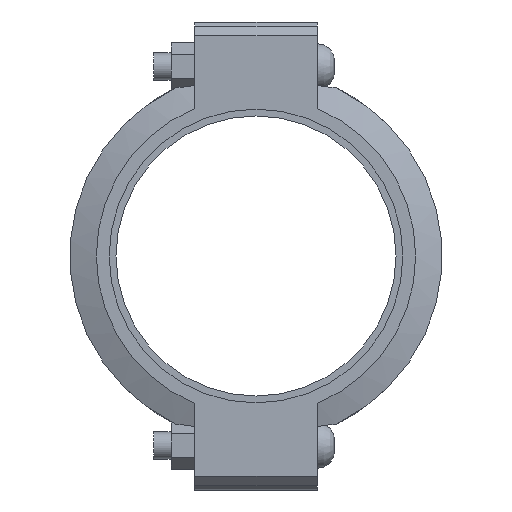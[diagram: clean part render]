
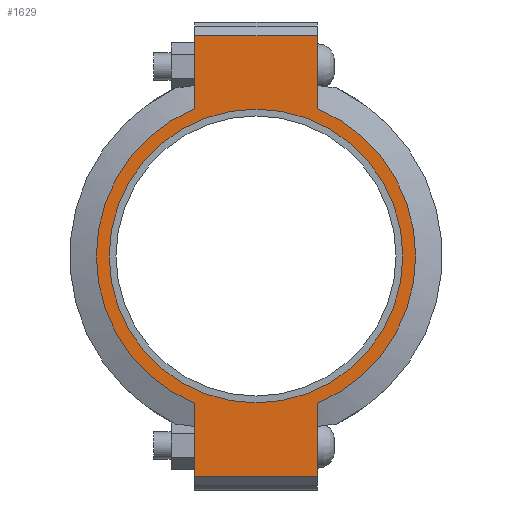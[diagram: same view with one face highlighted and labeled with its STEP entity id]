
A CAD part, left-side view. The second image highlights one B-rep face of the part: STEP entity #1629.
In plain terms, the highlighted planar face has unit normal (-1, 0, 0) as drawn and (0, 0, 1) by its records, which use the part's own axes.
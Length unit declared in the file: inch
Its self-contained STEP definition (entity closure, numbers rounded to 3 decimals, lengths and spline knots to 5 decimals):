
#200=LINE('',#2824,#289);
#211=LINE('',#2875,#300);
#217=LINE('',#2901,#306);
#219=LINE('',#2904,#308);
#220=LINE('',#2909,#309);
#221=LINE('',#2910,#310);
#289=VECTOR('',#2300,0.3937);
#300=VECTOR('',#2331,0.3937);
#306=VECTOR('',#2349,0.3937);
#308=VECTOR('',#2353,0.3937);
#309=VECTOR('',#2358,0.3937);
#310=VECTOR('',#2359,0.3937);
#372=FACE_BOUND('',#549,.T.);
#440=FACE_OUTER_BOUND('',#548,.T.);
#548=EDGE_LOOP('',(#1324,#1325,#1326,#1327,#1328,#1329,#1330,#1331));
#549=EDGE_LOOP('',(#1332));
#631=CIRCLE('',#1866,5.375);
#655=CIRCLE('',#1918,5.845);
#656=CIRCLE('',#1919,5.845);
#727=VERTEX_POINT('',#2650);
#768=VERTEX_POINT('',#2821);
#769=VERTEX_POINT('',#2823);
#786=VERTEX_POINT('',#2870);
#787=VERTEX_POINT('',#2874);
#794=VERTEX_POINT('',#2896);
#795=VERTEX_POINT('',#2900);
#796=VERTEX_POINT('',#2906);
#797=VERTEX_POINT('',#2908);
#891=EDGE_CURVE('',#727,#727,#631,.T.);
#948=EDGE_CURVE('',#769,#768,#200,.T.);
#969=EDGE_CURVE('',#787,#786,#211,.T.);
#980=EDGE_CURVE('',#795,#794,#217,.T.);
#982=EDGE_CURVE('',#795,#768,#219,.T.);
#983=EDGE_CURVE('',#794,#796,#655,.T.);
#984=EDGE_CURVE('',#796,#797,#220,.T.);
#985=EDGE_CURVE('',#787,#797,#221,.T.);
#986=EDGE_CURVE('',#786,#769,#656,.T.);
#1324=ORIENTED_EDGE('',*,*,#982,.F.);
#1325=ORIENTED_EDGE('',*,*,#980,.T.);
#1326=ORIENTED_EDGE('',*,*,#983,.T.);
#1327=ORIENTED_EDGE('',*,*,#984,.T.);
#1328=ORIENTED_EDGE('',*,*,#985,.F.);
#1329=ORIENTED_EDGE('',*,*,#969,.T.);
#1330=ORIENTED_EDGE('',*,*,#986,.T.);
#1331=ORIENTED_EDGE('',*,*,#948,.T.);
#1332=ORIENTED_EDGE('',*,*,#891,.T.);
#1469=PLANE('',#1917);
#1629=ADVANCED_FACE('',(#440,#372),#1469,.T.);
#1866=AXIS2_PLACEMENT_3D('',#2652,#2190,#2191);
#1917=AXIS2_PLACEMENT_3D('',#2905,#2354,#2355);
#1918=AXIS2_PLACEMENT_3D('',#2907,#2356,#2357);
#1919=AXIS2_PLACEMENT_3D('',#2911,#2360,#2361);
#2190=DIRECTION('center_axis',(0.,0.,-1.));
#2191=DIRECTION('ref_axis',(1.,0.,0.));
#2300=DIRECTION('',(1.,0.,0.));
#2331=DIRECTION('',(1.,0.,0.));
#2349=DIRECTION('',(-1.,0.,0.));
#2353=DIRECTION('',(0.,-1.,0.));
#2354=DIRECTION('center_axis',(0.,0.,1.));
#2355=DIRECTION('ref_axis',(-1.,0.,0.));
#2356=DIRECTION('center_axis',(0.,0.,1.));
#2357=DIRECTION('ref_axis',(1.,0.,0.));
#2358=DIRECTION('',(-1.,0.,0.));
#2359=DIRECTION('',(0.,1.,0.));
#2360=DIRECTION('center_axis',(0.,0.,1.));
#2361=DIRECTION('ref_axis',(1.,0.,0.));
#2650=CARTESIAN_POINT('',(-5.375,0.,1.315));
#2652=CARTESIAN_POINT('Origin',(0.,0.,1.315));
#2821=CARTESIAN_POINT('',(8.065,-2.25,1.315));
#2823=CARTESIAN_POINT('',(5.39458,-2.25,1.315));
#2824=CARTESIAN_POINT('',(-8.565,-2.25,1.315));
#2870=CARTESIAN_POINT('',(-5.39458,-2.25,1.315));
#2874=CARTESIAN_POINT('',(-8.065,-2.25,1.315));
#2875=CARTESIAN_POINT('',(-8.565,-2.25,1.315));
#2896=CARTESIAN_POINT('',(5.39458,2.25,1.315));
#2900=CARTESIAN_POINT('',(8.065,2.25,1.315));
#2901=CARTESIAN_POINT('',(8.565,2.25,1.315));
#2904=CARTESIAN_POINT('',(8.065,-1.125,1.315));
#2905=CARTESIAN_POINT('Origin',(0.,0.,
1.315));
#2906=CARTESIAN_POINT('',(-5.39458,2.25,1.315));
#2907=CARTESIAN_POINT('Origin',(0.,0.,1.315));
#2908=CARTESIAN_POINT('',(-8.065,2.25,1.315));
#2909=CARTESIAN_POINT('',(8.565,2.25,1.315));
#2910=CARTESIAN_POINT('',(-8.065,1.125,1.315));
#2911=CARTESIAN_POINT('Origin',(0.,0.,1.315));
